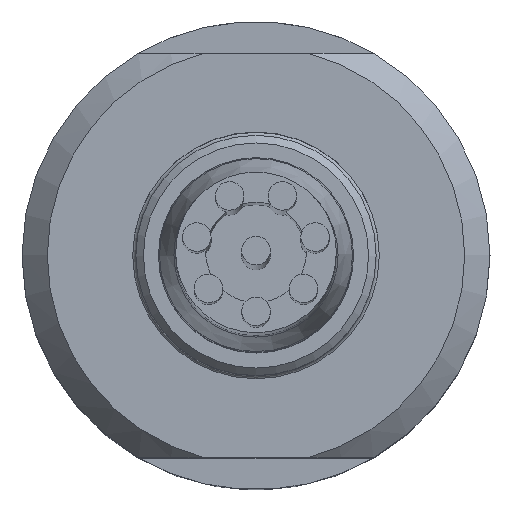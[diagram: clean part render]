
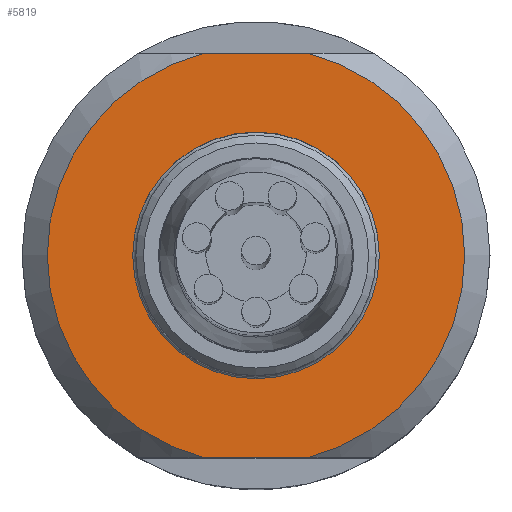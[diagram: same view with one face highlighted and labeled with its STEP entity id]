
A CAD part, top view. The second image highlights one B-rep face of the part: STEP entity #5819.
In plain terms, the highlighted planar face has unit normal (0, 0, 1).
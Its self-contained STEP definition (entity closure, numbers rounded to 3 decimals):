
#126 = DIRECTION ( 'NONE',  ( 1., 0., 0. ) ) ;
#209 = DIRECTION ( 'NONE',  ( -1., 0., 0. ) ) ;
#297 = EDGE_CURVE ( 'NONE', #5157, #2168, #5476, .T. ) ;
#671 = ORIENTED_EDGE ( 'NONE', *, *, #6008, .F. ) ;
#694 = CARTESIAN_POINT ( 'NONE',  ( 0., 0., 20.3 ) ) ;
#773 = AXIS2_PLACEMENT_3D ( 'NONE', #5782, #4280, #5367 ) ;
#924 = CARTESIAN_POINT ( 'NONE',  ( 2.016, -8., 20.3 ) ) ;
#1051 = VECTOR ( 'NONE', #4977, 1000. ) ;
#1140 = AXIS2_PLACEMENT_3D ( 'NONE', #694, #5242, #209 ) ;
#1190 = FACE_BOUND ( 'NONE', #1762, .T. ) ;
#1471 = VERTEX_POINT ( 'NONE', #924 ) ;
#1489 = CARTESIAN_POINT ( 'NONE',  ( -23.067, 8., 20.3 ) ) ;
#1689 = CIRCLE ( 'NONE', #1140, 4.875 ) ;
#1740 = CARTESIAN_POINT ( 'NONE',  ( 0., 8.25, 20.3 ) ) ;
#1762 = EDGE_LOOP ( 'NONE', ( #2910 ) ) ;
#1819 = EDGE_CURVE ( 'NONE', #5157, #1471, #2205, .T. ) ;
#2168 = VERTEX_POINT ( 'NONE', #2872 ) ;
#2205 = CIRCLE ( 'NONE', #773, 8.25 ) ;
#2581 = EDGE_CURVE ( 'NONE', #3384, #1471, #5498, .T. ) ;
#2644 = CARTESIAN_POINT ( 'NONE',  ( -2.016, -8., 20.3 ) ) ;
#2872 = CARTESIAN_POINT ( 'NONE',  ( -2.016, 8., 20.3 ) ) ;
#2910 = ORIENTED_EDGE ( 'NONE', *, *, #6675, .T. ) ;
#2954 = DIRECTION ( 'NONE',  ( 1., 0., 0. ) ) ;
#2981 = AXIS2_PLACEMENT_3D ( 'NONE', #1740, #5321, #126 ) ;
#3006 = DIRECTION ( 'NONE',  ( 0., 0., -1. ) ) ;
#3067 = CARTESIAN_POINT ( 'NONE',  ( -4.875, 0., 20.3 ) ) ;
#3384 = VERTEX_POINT ( 'NONE', #2644 ) ;
#3636 = AXIS2_PLACEMENT_3D ( 'NONE', #6505, #3006, #6004 ) ;
#3717 = VERTEX_POINT ( 'NONE', #3067 ) ;
#4280 = DIRECTION ( 'NONE',  ( 0., 0., -1. ) ) ;
#4380 = VECTOR ( 'NONE', #2954, 1000. ) ;
#4400 = FACE_OUTER_BOUND ( 'NONE', #6084, .T. ) ;
#4536 = CARTESIAN_POINT ( 'NONE',  ( -23.067, -8., 20.3 ) ) ;
#4611 = CIRCLE ( 'NONE', #3636, 8.25 ) ;
#4676 = ORIENTED_EDGE ( 'NONE', *, *, #2581, .T. ) ;
#4779 = CARTESIAN_POINT ( 'NONE',  ( 2.016, 8., 20.3 ) ) ;
#4865 = PLANE ( 'NONE',  #2981 ) ;
#4977 = DIRECTION ( 'NONE',  ( -1., 0., 0. ) ) ;
#5157 = VERTEX_POINT ( 'NONE', #4779 ) ;
#5242 = DIRECTION ( 'NONE',  ( 0., 0., -1. ) ) ;
#5253 = ORIENTED_EDGE ( 'NONE', *, *, #1819, .F. ) ;
#5315 = ORIENTED_EDGE ( 'NONE', *, *, #297, .T. ) ;
#5321 = DIRECTION ( 'NONE',  ( 0., 0., 1. ) ) ;
#5367 = DIRECTION ( 'NONE',  ( -1., 0., 0. ) ) ;
#5476 = LINE ( 'NONE', #1489, #1051 ) ;
#5498 = LINE ( 'NONE', #4536, #4380 ) ;
#5782 = CARTESIAN_POINT ( 'NONE',  ( 0., 0., 20.3 ) ) ;
#5819 = ADVANCED_FACE ( 'NONE', ( #1190, #4400 ), #4865, .T. ) ;
#6004 = DIRECTION ( 'NONE',  ( -1., 0., 0. ) ) ;
#6008 = EDGE_CURVE ( 'NONE', #3384, #2168, #4611, .T. ) ;
#6084 = EDGE_LOOP ( 'NONE', ( #671, #4676, #5253, #5315 ) ) ;
#6505 = CARTESIAN_POINT ( 'NONE',  ( 0., 0., 20.3 ) ) ;
#6675 = EDGE_CURVE ( 'NONE', #3717, #3717, #1689, .T. ) ;
